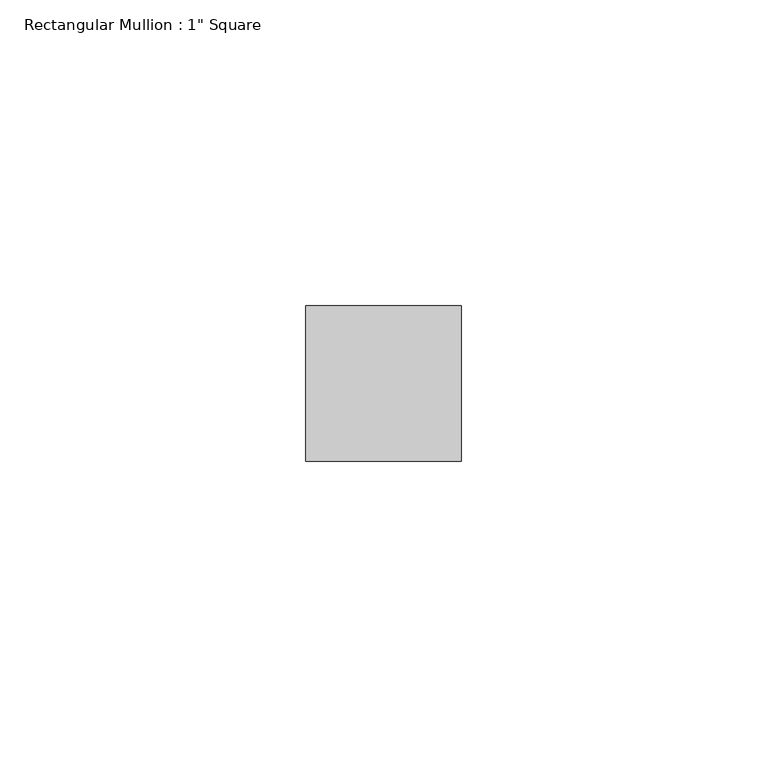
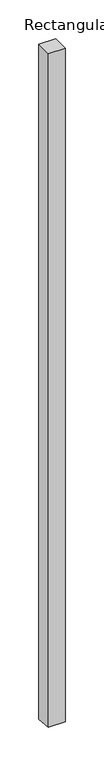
"""IFC4 building model written with IfcOpenShell, lengths in millimetres: member geometry."""

from ifc_helpers import new_model, si_unit, origin, place, context, project, spatial, faceted_brep, source, transform, mapped, element, save


def member_9a5a8c15(model_context):
    return source(origin(), model_context, "Body", "Brep", [
        faceted_brep([(0.0, 12.7, 0.0), (-25.4, 12.7, 0.0), (-25.4, -12.7, 0.0), (0.0, -12.7, 0.0), (0.0, 12.7, -1068.2545287), (-25.4, 12.7, -1067.591277), (-25.4, -12.7, -1064.6822196), (0.0, -12.7, -1065.3454713)], [[[0, 1, 2, 3]], [[1, 0, 4, 5]], [[2, 1, 5, 6]], [[3, 2, 6, 7]], [[0, 3, 7, 4]], [[4, 7, 6, 5]]]),
    ])


if __name__ == "__main__":
    model = new_model("IFC4")
    model_context = context("Model", 3, world=origin())
    ifc_project = project(units=[si_unit("LENGTHUNIT", "METRE", prefix="MILLI")], contexts=[model_context])
    site = spatial("IfcSite", under=ifc_project)
    building = spatial("IfcBuilding", under=site)
    placement = place(None, origin())
    member_shape = member_9a5a8c15(model_context)
    element("IfcMember", 1, ObjectType="Rectangular Mullion : 1\" Square", at=placement, inside=building, context=model_context, shape_type="MappedRepresentation", body=[
        mapped(member_shape, transform((0.0, 0.0, 0.0), x_axis=(1.0, 0.0, 0.0), y_axis=(0.0, 1.0, 0.0), z_axis=(0.0, 0.0, 1.0))),
    ])
    save(model, "model.ifc")
